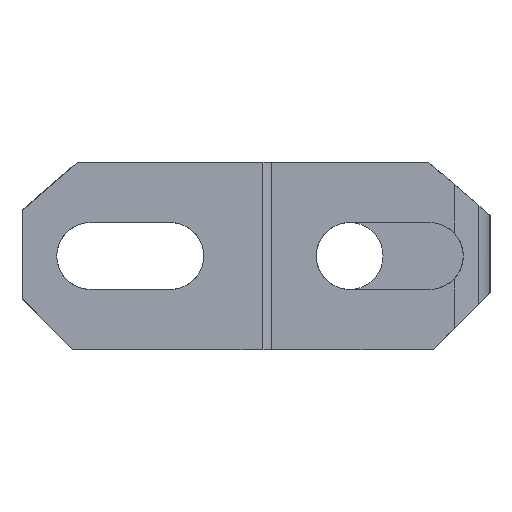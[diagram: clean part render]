
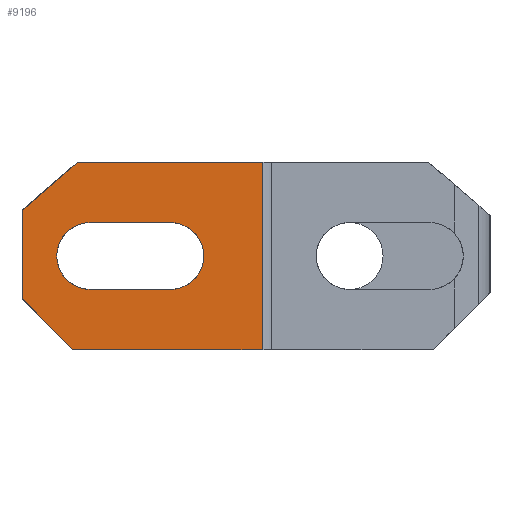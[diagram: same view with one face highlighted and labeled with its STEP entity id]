
A CAD part, left-side view. The second image highlights one B-rep face of the part: STEP entity #9196.
In plain terms, the highlighted planar face has unit normal (-1, 0, 0).
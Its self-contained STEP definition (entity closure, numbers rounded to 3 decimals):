
#4201=CARTESIAN_POINT('Vertex',(-49.351,15.498,-6.85)) ;
#4204=CARTESIAN_POINT('Line Origine',(-49.351,17.4,-4.948)) ;
#4208=CARTESIAN_POINT('Vertex',(-49.351,19.302,-3.047)) ;
#6566=CARTESIAN_POINT('Vertex',(-49.351,15.16,7.15)) ;
#6626=CARTESIAN_POINT('Vertex',(-49.351,19.302,3.561)) ;
#6629=CARTESIAN_POINT('Line Origine',(-49.351,17.231,5.356)) ;
#8784=CARTESIAN_POINT('Line Origine',(-49.351,19.302,0.257)) ;
#8834=CARTESIAN_POINT('Vertex',(-49.351,14.202,2.65)) ;
#8837=CARTESIAN_POINT('Axis2P3D Location',(-49.351,14.202,0.15)) ;
#8841=CARTESIAN_POINT('Vertex',(-49.351,14.202,-2.35)) ;
#8913=CARTESIAN_POINT('Line Origine',(-49.351,11.202,-2.35)) ;
#8917=CARTESIAN_POINT('Vertex',(-49.351,8.202,-2.35)) ;
#9138=CARTESIAN_POINT('Vertex',(-49.351,8.202,2.65)) ;
#9141=CARTESIAN_POINT('Line Origine',(-49.351,11.202,2.65)) ;
#9153=CARTESIAN_POINT('Axis2P3D Location',(-49.351,5.552,0.15)) ;
#9158=CARTESIAN_POINT('Line Origine',(-49.351,8.256,7.15)) ;
#9162=CARTESIAN_POINT('Vertex',(-49.351,1.352,7.15)) ;
#9165=CARTESIAN_POINT('Line Origine',(-49.351,8.425,-6.85)) ;
#9169=CARTESIAN_POINT('Vertex',(-49.351,1.352,-6.85)) ;
#9172=CARTESIAN_POINT('Line Origine',(-49.351,1.352,0.15)) ;
#9185=CARTESIAN_POINT('Axis2P3D Location',(-49.351,8.202,0.15)) ;
#4205=DIRECTION('Vector Direction',(0.,0.707,0.707)) ;
#6630=DIRECTION('Vector Direction',(0.,-0.756,0.655)) ;
#8785=DIRECTION('Vector Direction',(0.,0.,-1.)) ;
#8838=DIRECTION('Axis2P3D Direction',(-1.,0.,-0.)) ;
#8914=DIRECTION('Vector Direction',(0.,1.,0.)) ;
#9142=DIRECTION('Vector Direction',(0.,-1.,0.)) ;
#9154=DIRECTION('Axis2P3D Direction',(-1.,0.,-0.)) ;
#9155=DIRECTION('Axis2P3D XDirection',(0.,1.,0.)) ;
#9159=DIRECTION('Vector Direction',(0.,1.,0.)) ;
#9166=DIRECTION('Vector Direction',(0.,1.,0.)) ;
#9173=DIRECTION('Vector Direction',(0.,0.,1.)) ;
#9186=DIRECTION('Axis2P3D Direction',(-1.,0.,-0.)) ;
#8839=AXIS2_PLACEMENT_3D('Circle Axis2P3D',#8837,#8838,$) ;
#9156=AXIS2_PLACEMENT_3D('Plane Axis2P3D',#9153,#9154,#9155) ;
#9187=AXIS2_PLACEMENT_3D('Circle Axis2P3D',#9185,#9186,$) ;
#9178=ORIENTED_EDGE('',*,*,#9164,.T.) ;
#9179=ORIENTED_EDGE('',*,*,#6633,.F.) ;
#9180=ORIENTED_EDGE('',*,*,#8788,.T.) ;
#9181=ORIENTED_EDGE('',*,*,#4210,.F.) ;
#9182=ORIENTED_EDGE('',*,*,#9171,.F.) ;
#9183=ORIENTED_EDGE('',*,*,#9176,.T.) ;
#9191=ORIENTED_EDGE('',*,*,#8843,.F.) ;
#9192=ORIENTED_EDGE('',*,*,#9145,.T.) ;
#9193=ORIENTED_EDGE('',*,*,#9189,.F.) ;
#9194=ORIENTED_EDGE('',*,*,#8919,.T.) ;
#9195=FACE_BOUND('',#9190,.T.) ;
#4206=VECTOR('Line Direction',#4205,1.) ;
#6631=VECTOR('Line Direction',#6630,1.) ;
#8786=VECTOR('Line Direction',#8785,1.) ;
#8915=VECTOR('Line Direction',#8914,1.) ;
#9143=VECTOR('Line Direction',#9142,1.) ;
#9160=VECTOR('Line Direction',#9159,1.) ;
#9167=VECTOR('Line Direction',#9166,1.) ;
#9174=VECTOR('Line Direction',#9173,1.) ;
#9196=ADVANCED_FACE('Body.6',(#9184,#9195),#9157,.T.) ;
#8840=CIRCLE('generated circle',#8839,2.5) ;
#9188=CIRCLE('generated circle',#9187,2.5) ;
#4210=EDGE_CURVE('',#4202,#4209,#4207,.T.) ;
#6633=EDGE_CURVE('',#6627,#6567,#6632,.T.) ;
#8788=EDGE_CURVE('',#6627,#4209,#8787,.T.) ;
#8843=EDGE_CURVE('',#8835,#8842,#8840,.T.) ;
#8919=EDGE_CURVE('',#8918,#8842,#8916,.T.) ;
#9145=EDGE_CURVE('',#8835,#9139,#9144,.T.) ;
#9164=EDGE_CURVE('',#9163,#6567,#9161,.T.) ;
#9171=EDGE_CURVE('',#9170,#4202,#9168,.T.) ;
#9176=EDGE_CURVE('',#9170,#9163,#9175,.T.) ;
#9189=EDGE_CURVE('',#8918,#9139,#9188,.T.) ;
#9177=EDGE_LOOP('',(#9178,#9179,#9180,#9181,#9182,#9183)) ;
#9190=EDGE_LOOP('',(#9191,#9192,#9193,#9194)) ;
#9184=FACE_OUTER_BOUND('',#9177,.T.) ;
#4207=LINE('Line',#4204,#4206) ;
#6632=LINE('Line',#6629,#6631) ;
#8787=LINE('Line',#8784,#8786) ;
#8916=LINE('Line',#8913,#8915) ;
#9144=LINE('Line',#9141,#9143) ;
#9161=LINE('Line',#9158,#9160) ;
#9168=LINE('Line',#9165,#9167) ;
#9175=LINE('Line',#9172,#9174) ;
#9157=PLANE('',#9156) ;
#4202=VERTEX_POINT('',#4201) ;
#4209=VERTEX_POINT('',#4208) ;
#6567=VERTEX_POINT('',#6566) ;
#6627=VERTEX_POINT('',#6626) ;
#8835=VERTEX_POINT('',#8834) ;
#8842=VERTEX_POINT('',#8841) ;
#8918=VERTEX_POINT('',#8917) ;
#9139=VERTEX_POINT('',#9138) ;
#9163=VERTEX_POINT('',#9162) ;
#9170=VERTEX_POINT('',#9169) ;
